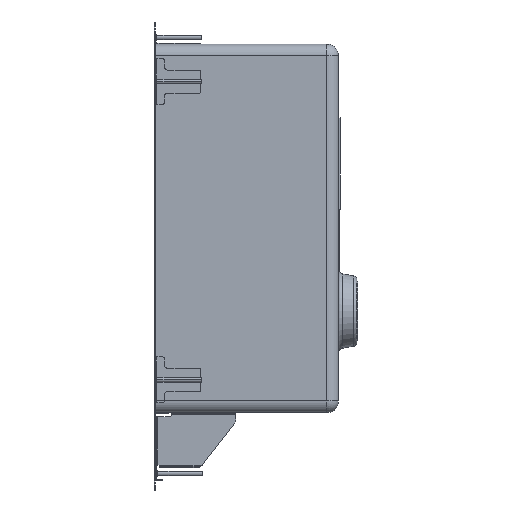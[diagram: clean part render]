
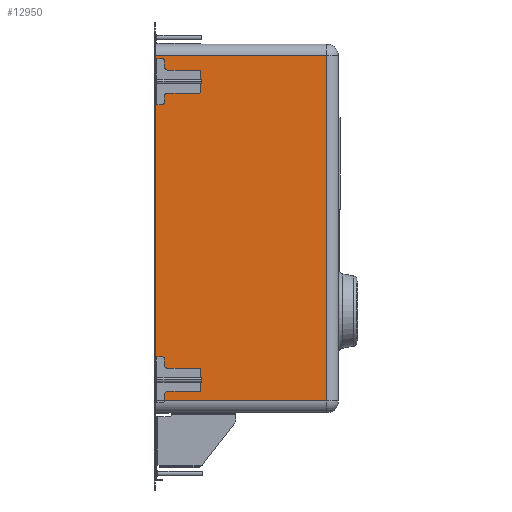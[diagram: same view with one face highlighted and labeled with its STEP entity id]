
A CAD part, left-side view. The second image highlights one B-rep face of the part: STEP entity #12950.
In plain terms, the highlighted planar face has unit normal (-1, 0, 0).
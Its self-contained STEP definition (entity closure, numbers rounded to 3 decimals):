
#249 = EDGE_CURVE ( 'NONE', #3300, #1057, #2851, .T. ) ;
#639 = DIRECTION ( 'NONE',  ( 0., -1., 0. ) ) ;
#732 = LINE ( 'NONE', #16730, #8851 ) ;
#1057 = VERTEX_POINT ( 'NONE', #5167 ) ;
#1122 = CARTESIAN_POINT ( 'NONE',  ( 19.1, -0.9, 32. ) ) ;
#1347 = EDGE_CURVE ( 'NONE', #3482, #3300, #732, .T. ) ;
#1719 = DIRECTION ( 'NONE',  ( 0., 1., 0. ) ) ;
#2778 = DIRECTION ( 'NONE',  ( -1., 0., 0. ) ) ;
#2851 = LINE ( 'NONE', #10910, #9638 ) ;
#3300 = VERTEX_POINT ( 'NONE', #12875 ) ;
#3482 = VERTEX_POINT ( 'NONE', #11916 ) ;
#5167 = CARTESIAN_POINT ( 'NONE',  ( 19.1, -188., 32. ) ) ;
#5298 = EDGE_LOOP ( 'NONE', ( #9193, #13624, #8861, #5929 ) ) ;
#5623 = LINE ( 'NONE', #5789, #11885 ) ;
#5711 = DIRECTION ( 'NONE',  ( 0., 0., -1. ) ) ;
#5789 = CARTESIAN_POINT ( 'NONE',  ( 19.1, -200., 32. ) ) ;
#5929 = ORIENTED_EDGE ( 'NONE', *, *, #1347, .F. ) ;
#6564 = EDGE_CURVE ( 'NONE', #1057, #11868, #5623, .T. ) ;
#8155 = PLANE ( 'NONE',  #13388 ) ;
#8463 = VECTOR ( 'NONE', #16573, 1000. ) ;
#8851 = VECTOR ( 'NONE', #639, 1000. ) ;
#8861 = ORIENTED_EDGE ( 'NONE', *, *, #249, .F. ) ;
#9193 = ORIENTED_EDGE ( 'NONE', *, *, #14098, .F. ) ;
#9529 = DIRECTION ( 'NONE',  ( 0., 0., 1. ) ) ;
#9638 = VECTOR ( 'NONE', #5711, 1000. ) ;
#10910 = CARTESIAN_POINT ( 'NONE',  ( 19.1, -188., 20. ) ) ;
#11868 = VERTEX_POINT ( 'NONE', #1122 ) ;
#11885 = VECTOR ( 'NONE', #1719, 1000. ) ;
#11916 = CARTESIAN_POINT ( 'NONE',  ( 19.1, -0.9, 408. ) ) ;
#11961 = FACE_OUTER_BOUND ( 'NONE', #5298, .T. ) ;
#12875 = CARTESIAN_POINT ( 'NONE',  ( 19.1, -188., 408. ) ) ;
#12948 = CARTESIAN_POINT ( 'NONE',  ( 19.1, -0.9, 0. ) ) ;
#12950 = ADVANCED_FACE ( 'NONE', ( #11961 ), #8155, .T. ) ;
#13388 = AXIS2_PLACEMENT_3D ( 'NONE', #13427, #2778, #9529 ) ;
#13427 = CARTESIAN_POINT ( 'NONE',  ( 19.1, -200., 20. ) ) ;
#13624 = ORIENTED_EDGE ( 'NONE', *, *, #6564, .F. ) ;
#14098 = EDGE_CURVE ( 'NONE', #11868, #3482, #14327, .T. ) ;
#14327 = LINE ( 'NONE', #12948, #8463 ) ;
#16573 = DIRECTION ( 'NONE',  ( 0., 0., 1. ) ) ;
#16730 = CARTESIAN_POINT ( 'NONE',  ( 19.1, -200., 408. ) ) ;
